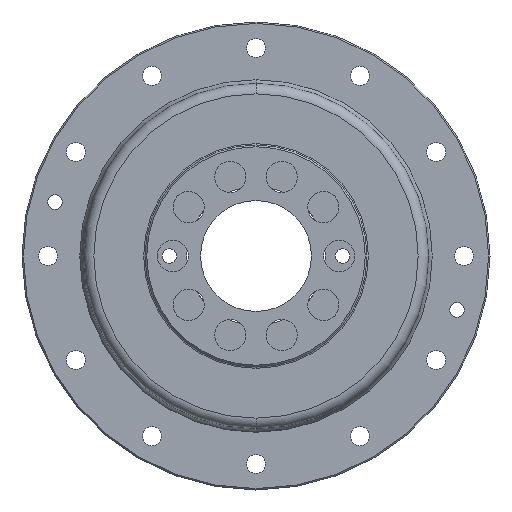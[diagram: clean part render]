
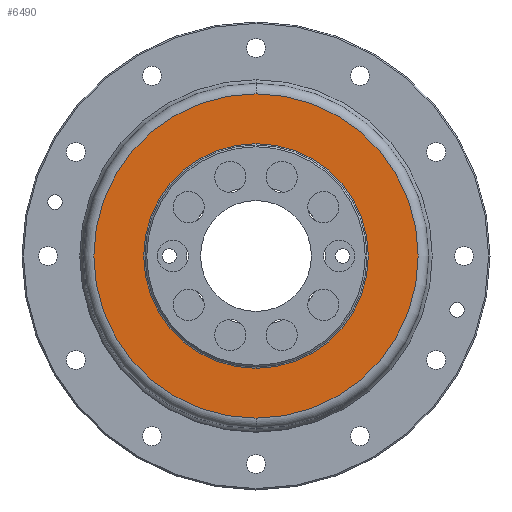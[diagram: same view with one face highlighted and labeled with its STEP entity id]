
A CAD part, left-side view. The second image highlights one B-rep face of the part: STEP entity #6490.
In plain terms, the highlighted planar face has unit normal (-1, 0, 0).
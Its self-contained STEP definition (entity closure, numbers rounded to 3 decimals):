
#1895 = CIRCLE ( 'NONE', #1901, 32.4 ) ;
#1901 = AXIS2_PLACEMENT_3D ( 'NONE', #7806, #29694, #10931 ) ;
#2186 = DIRECTION ( 'NONE',  ( 0., 0., 1. ) ) ;
#4685 = VERTEX_POINT ( 'NONE', #16872 ) ;
#6217 = PLANE ( 'NONE',  #23691 ) ;
#6242 = EDGE_CURVE ( 'NONE', #4685, #28363, #12713, .T. ) ;
#6490 = ADVANCED_FACE ( 'NONE', ( #21554, #29853 ), #6217, .F. ) ;
#6604 = EDGE_CURVE ( 'NONE', #11491, #32377, #25911, .T. ) ;
#7806 = CARTESIAN_POINT ( 'NONE',  ( 4.3, 0., 0. ) ) ;
#7822 = ORIENTED_EDGE ( 'NONE', *, *, #13121, .F. ) ;
#9353 = CARTESIAN_POINT ( 'NONE',  ( 4.3, 32.4, 0. ) ) ;
#10273 = AXIS2_PLACEMENT_3D ( 'NONE', #13299, #35226, #16442 ) ;
#10931 = DIRECTION ( 'NONE',  ( 0., 0., 1. ) ) ;
#11491 = VERTEX_POINT ( 'NONE', #22683 ) ;
#11837 = AXIS2_PLACEMENT_3D ( 'NONE', #39709, #20950, #2186 ) ;
#11919 = CIRCLE ( 'NONE', #35092, 46.78 ) ;
#12713 = CIRCLE ( 'NONE', #11837, 46.78 ) ;
#13102 = EDGE_LOOP ( 'NONE', ( #7822, #40223 ) ) ;
#13121 = EDGE_CURVE ( 'NONE', #32377, #11491, #1895, .T. ) ;
#13299 = CARTESIAN_POINT ( 'NONE',  ( 4.3, 0., 0. ) ) ;
#14206 = ORIENTED_EDGE ( 'NONE', *, *, #6242, .T. ) ;
#15656 = DIRECTION ( 'NONE',  ( 1., 0., 0. ) ) ;
#15971 = DIRECTION ( 'NONE',  ( -1., 0., 0. ) ) ;
#16442 = DIRECTION ( 'NONE',  ( 0., 0., 1. ) ) ;
#16872 = CARTESIAN_POINT ( 'NONE',  ( 4.3, 0., -46.78 ) ) ;
#19002 = EDGE_LOOP ( 'NONE', ( #28469, #14206 ) ) ;
#20950 = DIRECTION ( 'NONE',  ( -1., 0., 0. ) ) ;
#21554 = FACE_BOUND ( 'NONE', #13102, .T. ) ;
#22683 = CARTESIAN_POINT ( 'NONE',  ( 4.3, 0., -32.4 ) ) ;
#23691 = AXIS2_PLACEMENT_3D ( 'NONE', #9353, #15656, #37583 ) ;
#25911 = CIRCLE ( 'NONE', #10273, 32.4 ) ;
#28311 = CARTESIAN_POINT ( 'NONE',  ( 4.3, 0., 46.78 ) ) ;
#28363 = VERTEX_POINT ( 'NONE', #28311 ) ;
#28469 = ORIENTED_EDGE ( 'NONE', *, *, #38340, .T. ) ;
#29694 = DIRECTION ( 'NONE',  ( -1., 0., 0. ) ) ;
#29853 = FACE_OUTER_BOUND ( 'NONE', #19002, .T. ) ;
#32377 = VERTEX_POINT ( 'NONE', #35971 ) ;
#34742 = CARTESIAN_POINT ( 'NONE',  ( 4.3, 0., 0. ) ) ;
#35092 = AXIS2_PLACEMENT_3D ( 'NONE', #34742, #15971, #37912 ) ;
#35226 = DIRECTION ( 'NONE',  ( -1., 0., 0. ) ) ;
#35971 = CARTESIAN_POINT ( 'NONE',  ( 4.3, 0., 32.4 ) ) ;
#37583 = DIRECTION ( 'NONE',  ( 0., 0., -1. ) ) ;
#37912 = DIRECTION ( 'NONE',  ( 0., 0., 1. ) ) ;
#38340 = EDGE_CURVE ( 'NONE', #28363, #4685, #11919, .T. ) ;
#39709 = CARTESIAN_POINT ( 'NONE',  ( 4.3, 0., 0. ) ) ;
#40223 = ORIENTED_EDGE ( 'NONE', *, *, #6604, .F. ) ;
